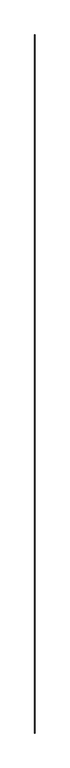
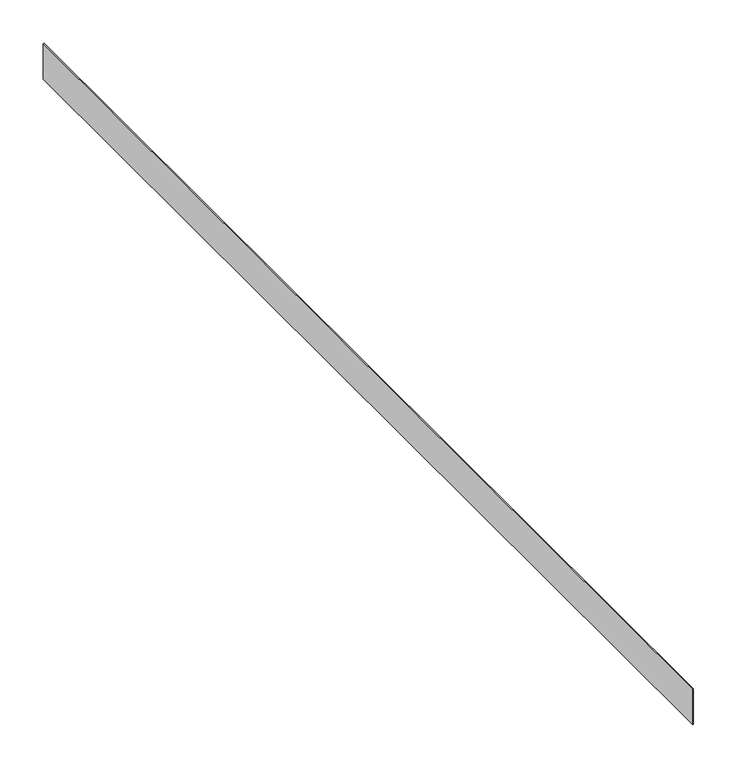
"""IFC4 building model written with IfcOpenShell, lengths in millimetres: proxy geometry, Amphibia Pressure Line1 : Amphibia Pressure Line."""

from ifc_helpers import new_model, si_unit, frame, origin, place, context, project, spatial, polyline, outline, extrude, source, transform, mapped, element, save


def generic_models_430df7a9(model_context):
    return source(origin(), model_context, "Body", "SweptSolid", [
        extrude(outline(polyline([(2267.8295895, 145.8700195), (2268.8295895, 145.8700195), (2268.8295895, -1354.1299805), (2267.8295895, -1354.1299805), (2267.8295895, 145.8700195)])), frame((0.0, 0.0, 447.476202), z_axis=(0.0, 0.0, 1.0), x_axis=(1.0, 0.0, 0.0)), (0.0, 0.0, 1.0), 50.0),
    ])


if __name__ == "__main__":
    model = new_model("IFC4")
    model_context = context("Model", 3, world=origin())
    ifc_project = project(units=[si_unit("LENGTHUNIT", "METRE", prefix="MILLI")], contexts=[model_context])
    site = spatial("IfcSite", under=ifc_project)
    building = spatial("IfcBuilding", under=site)
    placement = place(None, origin())
    generic_models_shape = generic_models_430df7a9(model_context)
    element("IfcBuildingElementProxy", 1, Name="Amphibia Pressure Line1 : Amphibia Pressure Line", ObjectType="Amphibia Pressure Line1 : Amphibia Pressure Line", at=placement, inside=building, context=model_context, shape_type="MappedRepresentation", body=[
        mapped(generic_models_shape, transform((0.0, 0.0, 0.0), x_axis=(1.0, 0.0, 0.0), y_axis=(0.0, 1.0, 0.0), z_axis=(0.0, 0.0, 1.0))),
    ])
    save(model, "model.ifc")
